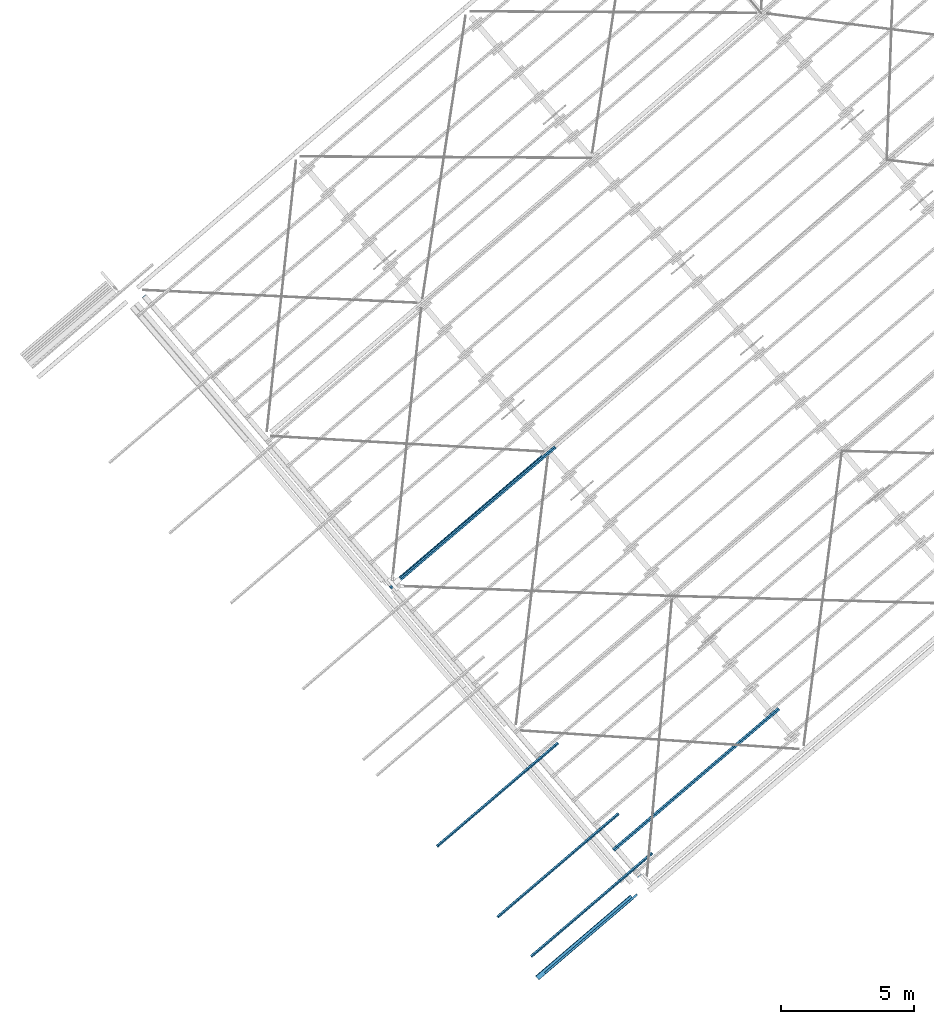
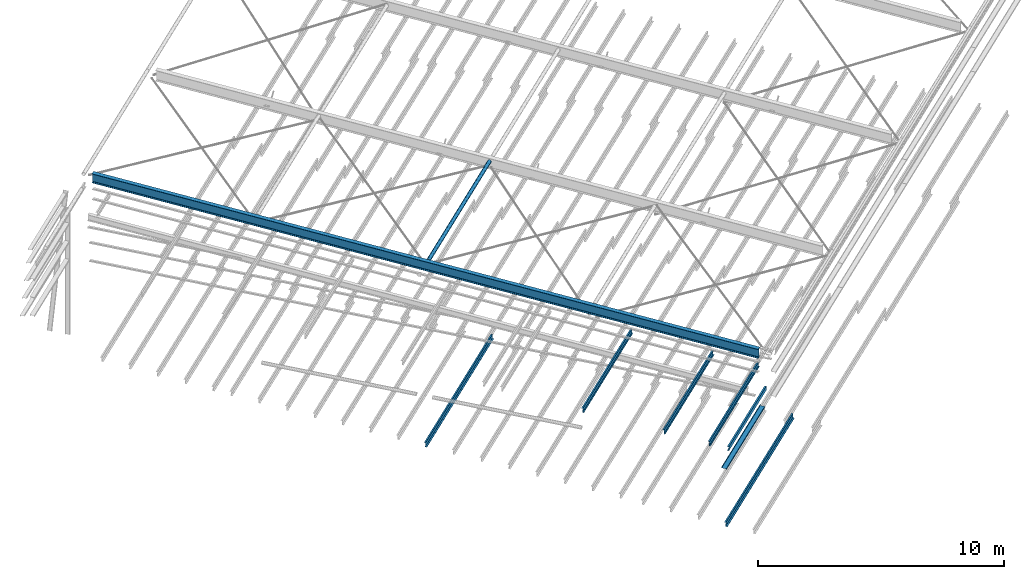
# One storey, part 2 of 25: 8 beams, 1 member, 2 elements without a shape of their own.
"""IFC2X3 building model written with IfcOpenShell, lengths in millimetres."""

from ifc_helpers import new_model, entity, si_unit, converted_unit, derived_unit, direction, frame, frame_2d, origin, origin_2d, origin_2d_with_axis, place, context, subcontext, project, spatial, polyline, circle_curve, parameter, trimmed, segment, composite_curve, hollow_circle, i_section, outline, extrude, clip, halfspace, material, type_object, element, aggregate, save


model = new_model("IFC2X3")

# Units and contexts
model_context = context("Model", 3, precision=0.01, world=origin(), true_north=direction((6.123031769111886e-17, 1.0)))
body_context = subcontext(model_context, "Body", "Model", "MODEL_VIEW")
ifc_project = project(units=[si_unit("LENGTHUNIT", "METRE", prefix="MILLI"), si_unit("AREAUNIT", "SQUARE_METRE"), si_unit("VOLUMEUNIT", "CUBIC_METRE"), converted_unit("PLANEANGLEUNIT", "DEGREE", entity("IfcRatioMeasure", 0.017453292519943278), si_unit("PLANEANGLEUNIT", "RADIAN"), dimensions=[0, 0, 0, 0, 0, 0, 0]), si_unit("MASSUNIT", "GRAM", prefix="KILO"), derived_unit("MASSDENSITYUNIT", [(si_unit("MASSUNIT", "GRAM", prefix="KILO"), 1), (si_unit("LENGTHUNIT", "METRE"), -3)]), derived_unit("MOMENTOFINERTIAUNIT", [(si_unit("LENGTHUNIT", "METRE"), 4)]), si_unit("TIMEUNIT", "SECOND"), si_unit("FREQUENCYUNIT", "HERTZ"), si_unit("THERMODYNAMICTEMPERATUREUNIT", "DEGREE_CELSIUS"), derived_unit("THERMALTRANSMITTANCEUNIT", [(si_unit("MASSUNIT", "GRAM", prefix="KILO"), 1), (si_unit("THERMODYNAMICTEMPERATUREUNIT", "KELVIN"), -1), (si_unit("TIMEUNIT", "SECOND"), -3)]), derived_unit("VOLUMETRICFLOWRATEUNIT", [(si_unit("LENGTHUNIT", "METRE"), 3), (si_unit("TIMEUNIT", "SECOND"), -1)]), derived_unit("MASSFLOWRATEUNIT", [(si_unit("MASSUNIT", "GRAM", prefix="KILO"), 1), (si_unit("TIMEUNIT", "SECOND"), -1)]), derived_unit("ROTATIONALFREQUENCYUNIT", [(si_unit("TIMEUNIT", "SECOND"), -1)]), si_unit("ELECTRICCURRENTUNIT", "AMPERE"), si_unit("ELECTRICVOLTAGEUNIT", "VOLT"), si_unit("POWERUNIT", "WATT"), si_unit("FORCEUNIT", "NEWTON", prefix="KILO"), si_unit("ILLUMINANCEUNIT", "LUX"), si_unit("LUMINOUSFLUXUNIT", "LUMEN"), si_unit("LUMINOUSINTENSITYUNIT", "CANDELA"), derived_unit("USERDEFINED", [(si_unit("MASSUNIT", "GRAM", prefix="KILO"), -1), (si_unit("LENGTHUNIT", "METRE"), -2), (si_unit("TIMEUNIT", "SECOND"), 3), (si_unit("LUMINOUSFLUXUNIT", "LUMEN"), 1)]), derived_unit("SOUNDPOWERUNIT", [(si_unit("MASSUNIT", "GRAM", prefix="KILO"), 1), (si_unit("LENGTHUNIT", "METRE"), 2), (si_unit("TIMEUNIT", "SECOND"), -3)]), derived_unit("LINEARVELOCITYUNIT", [(si_unit("LENGTHUNIT", "METRE"), 1), (si_unit("TIMEUNIT", "SECOND"), -1)]), si_unit("PRESSUREUNIT", "PASCAL"), derived_unit("USERDEFINED", [(si_unit("LENGTHUNIT", "METRE"), -2), (si_unit("MASSUNIT", "GRAM", prefix="KILO"), 1), (si_unit("TIMEUNIT", "SECOND"), -2)]), derived_unit("LINEARFORCEUNIT", [(si_unit("MASSUNIT", "GRAM", prefix="KILO"), 1), (si_unit("LENGTHUNIT", "METRE"), 1), (si_unit("TIMEUNIT", "SECOND"), -2), (si_unit("LENGTHUNIT", "METRE"), -1)]), derived_unit("PLANARFORCEUNIT", [(si_unit("MASSUNIT", "GRAM", prefix="KILO"), 1), (si_unit("LENGTHUNIT", "METRE"), 1), (si_unit("TIMEUNIT", "SECOND"), -2), (si_unit("LENGTHUNIT", "METRE"), -2)])], contexts=[model_context])

# Site, building, storey
site_placement = place(None, frame((962.4174930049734, -6014.433753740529, 0.0), z_axis=(0.0, 0.0, 1.0), x_axis=(0.7601792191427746, 0.649713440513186, 0.0)))
site = spatial("IfcSite", under=ifc_project, at=site_placement, Name="Default", CompositionType="ELEMENT")
building_placement = place(site_placement, origin())
building = spatial("IfcBuilding", under=site, at=building_placement, CompositionType="ELEMENT")
storey_placement = place(building_placement, frame((0.0, 0.0, 9200.0)))
storey = spatial("IfcBuildingStorey", under=building, at=storey_placement, Name="TOP OF CEILING", CompositionType="ELEMENT", Elevation=9200.000000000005)

# Beams
ifc_material_1 = material(Name="Metal - Steel - 300 MPa")
beam_type_1 = type_object("IfcBeamType", Name="ADSK_AU_CHS-Circular Hollow Sections (AS 1163_C350):168.3x6.4CHS", PredefinedType="NOTDEFINED")
beam_1_placement = place(storey_placement, frame((162338.96020471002, -11221.928082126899, 3047.4), z_axis=(-1.7905021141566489e-06, 0.0, 1.0), x_axis=(-1.0, 0.0, -1.7905021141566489e-06)))
element("IfcBeam", 1, at=beam_1_placement, inside=storey, type_object=beam_type_1, material=ifc_material_1, Name="ADSK_AU_CHS-Circular Hollow Sections (AS 1163_C350):168.3x6.4CHS", ObjectType="ADSK_AU_CHS-Circular Hollow Sections (AS 1163_C350):168.3x6.4CHS", context=body_context, shape_type="SweptSolid", body=[
    extrude(hollow_circle(Radius=84.15000000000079, WallThickness=6.4000000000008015, at=origin_2d_with_axis()), frame((0.03744185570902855, 0.0, -84.15000000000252), z_axis=(1.0, 0.0, 0.0), x_axis=(0.0, 0.0, -1.0)), (0.0, 0.0, 1.0), 7467.30640473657),
])
beam_type_2 = type_object("IfcBeamType", Name="ADSK_UK_Light Gauge-Zeds-Purlin:Metsec-202Z14", PredefinedType="NOTDEFINED")
beam_2_placement = place(storey_placement, frame((155490.82110097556, -19787.428082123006, 1190.0), z_axis=(0.0, 0.0, 1.0), x_axis=(-1.0, 0.0, 0.0)))
element("IfcBeam", 2, at=beam_2_placement, inside=storey, type_object=beam_type_2, material=ifc_material_1, Name="ADSK_UK_Light Gauge-Zeds-Purlin:Metsec-202Z14", ObjectType="ADSK_UK_Light Gauge-Zeds-Purlin:Metsec-202Z14", context=body_context, shape_type="SweptSolid", body=[
    extrude(outline(composite_curve([segment(trimmed(circle_curve(frame_2d((98.39999999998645, 58.0), x_axis=(1.0, 0.0)), 2.8000000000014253), [parameter(0.0)], [parameter(89.9999999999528)], True, "PARAMETER"), True, "CONTINUOUS"), segment(polyline([(98.39999999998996, 60.80000000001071), (80.19999999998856, 60.80000000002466)]), True, "CONTINUOUS"), segment(polyline([(80.19999999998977, 60.80000000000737), (80.19999999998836, 59.40000000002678)]), True, "CONTINUOUS"), segment(polyline([(80.19999999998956, 59.4000000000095), (98.39999999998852, 59.40000000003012)]), True, "CONTINUOUS"), segment(trimmed(circle_curve(frame_2d((98.39999999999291, 58.0), x_axis=(0.0, 1.0)), 1.3999999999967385), [parameter(269.9999999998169)], [parameter(0.0)], True, "PARAMETER"), False, "CONTINUOUS"), segment(polyline([(99.79999999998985, 58.0), (99.79999999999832, 3.6000000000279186)]), True, "CONTINUOUS"), segment(trimmed(circle_curve(frame_2d((98.4000000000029, 3.600000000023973), x_axis=(1.0, 0.0)), 1.3999999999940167), [parameter(269.99999999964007)], [parameter(0.0)], True, "PARAMETER"), False, "CONTINUOUS"), segment(polyline([(98.39999999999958, 2.2000000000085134), (-98.0, 2.1999999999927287)]), True, "CONTINUOUS"), segment(trimmed(circle_curve(frame_2d((-98.0, -0.6000000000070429), x_axis=(0.0, 1.0)), 2.80000000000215), [parameter(0.0)], [parameter(89.99999999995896)], True, "PARAMETER"), True, "CONTINUOUS"), segment(polyline([(-100.79999999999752, -0.6000000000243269), (-100.79999999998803, -60.0)]), True, "CONTINUOUS"), segment(trimmed(circle_curve(frame_2d((-98.0, -60.0), x_axis=(-1.0, 0.0)), 2.8000000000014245), [parameter(0.0)], [parameter(89.9999999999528)], True, "PARAMETER"), True, "CONTINUOUS"), segment(polyline([(-98.0, -62.80000000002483), (-81.79999999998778, -62.80000000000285)]), True, "CONTINUOUS"), segment(polyline([(-81.79999999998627, -62.800000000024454), (-81.79999999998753, -61.40000000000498)]), True, "CONTINUOUS"), segment(polyline([(-81.79999999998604, -61.40000000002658), (-98.0, -61.400000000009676)]), True, "CONTINUOUS"), segment(trimmed(circle_curve(frame_2d((-98.0, -60.0), x_axis=(0.0, -1.0)), 1.3999999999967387), [parameter(269.9999999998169)], [parameter(0.0)], True, "PARAMETER"), False, "CONTINUOUS"), segment(polyline([(-99.3999999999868, -60.0), (-99.39999999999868, -0.6000000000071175)]), True, "CONTINUOUS"), segment(trimmed(circle_curve(frame_2d((-98.0, -0.6000000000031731), x_axis=(-1.0, 0.0)), 1.3999999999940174), [parameter(269.99999999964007)], [parameter(0.0)], True, "PARAMETER"), False, "CONTINUOUS"), segment(polyline([(-98.0, 0.7999999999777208), (98.40000000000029, 0.8000000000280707)]), True, "CONTINUOUS"), segment(trimmed(circle_curve(frame_2d((98.39999999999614, 3.6000000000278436), x_axis=(0.0, -1.0)), 2.8000000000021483), [parameter(0.0)], [parameter(89.99999999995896)], True, "PARAMETER"), True, "CONTINUOUS"), segment(polyline([(101.19999999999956, 3.600000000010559), (101.19999999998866, 58.0)]), True, "CONTINUOUS")], self_intersect=False)), frame((0.0, -7.6946638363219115, -100.5083188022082), z_axis=(1.0, 0.0, 0.0), x_axis=(0.0, -0.06940825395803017, -0.9975883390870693)), (0.0, 0.0, 1.0), 6000.000000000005),
])
beam_3_placement = place(storey_placement, frame((155490.82110097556, -23287.42808212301, 940.0), z_axis=(0.0, 0.0, 1.0), x_axis=(-1.0, 0.0, 0.0)))
element("IfcBeam", 3, at=beam_3_placement, inside=storey, type_object=beam_type_2, material=ifc_material_1, Name="ADSK_UK_Light Gauge-Zeds-Purlin:Metsec-202Z14", ObjectType="ADSK_UK_Light Gauge-Zeds-Purlin:Metsec-202Z14", context=body_context, shape_type="SweptSolid", body=[
    extrude(outline(composite_curve([segment(trimmed(circle_curve(frame_2d((98.39999999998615, 58.0), x_axis=(1.0, 0.0)), 2.8000000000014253), [parameter(0.0)], [parameter(89.9999999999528)], True, "PARAMETER"), True, "CONTINUOUS"), segment(polyline([(98.39999999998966, 60.80000000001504), (80.19999999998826, 60.80000000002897)]), True, "CONTINUOUS"), segment(polyline([(80.19999999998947, 60.80000000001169), (80.19999999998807, 59.4000000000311)]), True, "CONTINUOUS"), segment(polyline([(80.19999999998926, 59.40000000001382), (98.39999999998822, 59.40000000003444)]), True, "CONTINUOUS"), segment(trimmed(circle_curve(frame_2d((98.39999999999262, 58.0), x_axis=(0.0, 1.0)), 1.3999999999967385), [parameter(269.9999999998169)], [parameter(0.0)], True, "PARAMETER"), False, "CONTINUOUS"), segment(polyline([(99.79999999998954, 58.0), (99.79999999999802, 3.6000000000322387)]), True, "CONTINUOUS"), segment(trimmed(circle_curve(frame_2d((98.4000000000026, 3.600000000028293), x_axis=(1.0, 0.0)), 1.3999999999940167), [parameter(269.99999999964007)], [parameter(0.0)], True, "PARAMETER"), False, "CONTINUOUS"), segment(polyline([(98.39999999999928, 2.2000000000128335), (-98.0, 2.1999999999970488)]), True, "CONTINUOUS"), segment(trimmed(circle_curve(frame_2d((-98.0, -0.6000000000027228), x_axis=(0.0, 1.0)), 2.80000000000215), [parameter(0.0)], [parameter(89.99999999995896)], True, "PARAMETER"), True, "CONTINUOUS"), segment(polyline([(-100.79999999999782, -0.6000000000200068), (-100.79999999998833, -60.0)]), True, "CONTINUOUS"), segment(trimmed(circle_curve(frame_2d((-98.0, -60.0), x_axis=(-1.0, 0.0)), 2.8000000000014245), [parameter(0.0)], [parameter(89.9999999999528)], True, "PARAMETER"), True, "CONTINUOUS"), segment(polyline([(-98.0, -62.80000000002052), (-81.79999999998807, -62.79999999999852)]), True, "CONTINUOUS"), segment(polyline([(-81.79999999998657, -62.800000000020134), (-81.79999999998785, -61.400000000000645)]), True, "CONTINUOUS"), segment(polyline([(-81.79999999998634, -61.40000000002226), (-98.0, -61.40000000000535)]), True, "CONTINUOUS"), segment(trimmed(circle_curve(frame_2d((-98.0, -60.0), x_axis=(0.0, -1.0)), 1.3999999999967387), [parameter(269.9999999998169)], [parameter(0.0)], True, "PARAMETER"), False, "CONTINUOUS"), segment(polyline([(-99.3999999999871, -60.0), (-99.39999999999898, -0.6000000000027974)]), True, "CONTINUOUS"), segment(trimmed(circle_curve(frame_2d((-98.0, -0.5999999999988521), x_axis=(-1.0, 0.0)), 1.3999999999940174), [parameter(269.99999999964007)], [parameter(0.0)], True, "PARAMETER"), False, "CONTINUOUS"), segment(polyline([(-98.0, 0.7999999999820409), (98.39999999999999, 0.8000000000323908)]), True, "CONTINUOUS"), segment(trimmed(circle_curve(frame_2d((98.39999999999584, 3.600000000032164), x_axis=(0.0, -1.0)), 2.8000000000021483), [parameter(0.0)], [parameter(89.99999999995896)], True, "PARAMETER"), True, "CONTINUOUS"), segment(polyline([(101.19999999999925, 3.6000000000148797), (101.19999999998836, 58.0)]), True, "CONTINUOUS")], self_intersect=False)), frame((0.0, -7.694663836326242, -100.5083188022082), z_axis=(1.0, 0.0, 0.0), x_axis=(0.0, -0.06940825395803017, -0.9975883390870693)), (0.0, 0.0, 1.0), 6000.000000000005),
])
beam_4_placement = place(storey_placement, frame((155490.82110097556, -25237.428082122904, 810.0), z_axis=(0.0, 0.0, 1.0), x_axis=(-1.0, 0.0, 0.0)))
element("IfcBeam", 4, at=beam_4_placement, inside=storey, type_object=beam_type_2, material=ifc_material_1, Name="ADSK_UK_Light Gauge-Zeds-Purlin:Metsec-202Z14", ObjectType="ADSK_UK_Light Gauge-Zeds-Purlin:Metsec-202Z14", context=body_context, shape_type="SweptSolid", body=[
    extrude(outline(composite_curve([segment(trimmed(circle_curve(frame_2d((98.39999999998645, 58.0), x_axis=(1.0, 0.0)), 2.8000000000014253), [parameter(0.0)], [parameter(89.9999999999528)], True, "PARAMETER"), True, "CONTINUOUS"), segment(polyline([(98.39999999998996, 60.80000000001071), (80.19999999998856, 60.80000000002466)]), True, "CONTINUOUS"), segment(polyline([(80.19999999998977, 60.80000000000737), (80.19999999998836, 59.40000000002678)]), True, "CONTINUOUS"), segment(polyline([(80.19999999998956, 59.4000000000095), (98.39999999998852, 59.40000000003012)]), True, "CONTINUOUS"), segment(trimmed(circle_curve(frame_2d((98.39999999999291, 58.0), x_axis=(0.0, 1.0)), 1.3999999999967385), [parameter(269.9999999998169)], [parameter(0.0)], True, "PARAMETER"), False, "CONTINUOUS"), segment(polyline([(99.79999999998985, 58.0), (99.79999999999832, 3.6000000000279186)]), True, "CONTINUOUS"), segment(trimmed(circle_curve(frame_2d((98.4000000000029, 3.600000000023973), x_axis=(1.0, 0.0)), 1.3999999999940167), [parameter(269.99999999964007)], [parameter(0.0)], True, "PARAMETER"), False, "CONTINUOUS"), segment(polyline([(98.39999999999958, 2.2000000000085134), (-98.0, 2.1999999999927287)]), True, "CONTINUOUS"), segment(trimmed(circle_curve(frame_2d((-98.0, -0.6000000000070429), x_axis=(0.0, 1.0)), 2.80000000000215), [parameter(0.0)], [parameter(89.99999999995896)], True, "PARAMETER"), True, "CONTINUOUS"), segment(polyline([(-100.79999999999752, -0.6000000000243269), (-100.79999999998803, -60.0)]), True, "CONTINUOUS"), segment(trimmed(circle_curve(frame_2d((-98.0, -60.0), x_axis=(-1.0, 0.0)), 2.8000000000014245), [parameter(0.0)], [parameter(89.9999999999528)], True, "PARAMETER"), True, "CONTINUOUS"), segment(polyline([(-98.0, -62.80000000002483), (-81.79999999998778, -62.80000000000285)]), True, "CONTINUOUS"), segment(polyline([(-81.79999999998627, -62.800000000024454), (-81.79999999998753, -61.40000000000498)]), True, "CONTINUOUS"), segment(polyline([(-81.79999999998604, -61.40000000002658), (-98.0, -61.400000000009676)]), True, "CONTINUOUS"), segment(trimmed(circle_curve(frame_2d((-98.0, -60.0), x_axis=(0.0, -1.0)), 1.3999999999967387), [parameter(269.9999999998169)], [parameter(0.0)], True, "PARAMETER"), False, "CONTINUOUS"), segment(polyline([(-99.3999999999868, -60.0), (-99.39999999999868, -0.6000000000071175)]), True, "CONTINUOUS"), segment(trimmed(circle_curve(frame_2d((-98.0, -0.6000000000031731), x_axis=(-1.0, 0.0)), 1.3999999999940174), [parameter(269.99999999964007)], [parameter(0.0)], True, "PARAMETER"), False, "CONTINUOUS"), segment(polyline([(-98.0, 0.7999999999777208), (98.40000000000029, 0.8000000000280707)]), True, "CONTINUOUS"), segment(trimmed(circle_curve(frame_2d((98.39999999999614, 3.6000000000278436), x_axis=(0.0, -1.0)), 2.8000000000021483), [parameter(0.0)], [parameter(89.99999999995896)], True, "PARAMETER"), True, "CONTINUOUS"), segment(polyline([(101.19999999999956, 3.600000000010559), (101.19999999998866, 58.0)]), True, "CONTINUOUS")], self_intersect=False)), frame((0.0, -7.6946638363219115, -100.5083188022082), z_axis=(1.0, 0.0, 0.0), x_axis=(0.0, -0.06940825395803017, -0.9975883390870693)), (0.0, 0.0, 1.0), 6000.000000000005),
])
beam_5_placement = place(storey_placement, frame((153838.4387790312, -25888.928082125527, -100.0), z_axis=(0.0, 0.0, 1.0), x_axis=(-1.0, 0.0, 0.0)))
element("IfcBeam", 5, at=beam_5_placement, inside=storey, type_object=beam_type_2, material=ifc_material_1, Name="ADSK_UK_Light Gauge-Zeds-Purlin:Metsec-202Z14", ObjectType="ADSK_UK_Light Gauge-Zeds-Purlin:Metsec-202Z14", context=body_context, shape_type="SweptSolid", body=[
    extrude(outline(composite_curve([segment(polyline([(-60.0, -100.80000000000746), (-0.5999999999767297, -100.80000000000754)]), True, "CONTINUOUS"), segment(trimmed(circle_curve(frame_2d((-0.5999999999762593, -98.0), x_axis=(0.0, -1.0)), 2.8000000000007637), [parameter(0.0)], [parameter(90.00000000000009)], True, "PARAMETER"), True, "CONTINUOUS"), segment(polyline([(2.200000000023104, -98.0), (2.1999999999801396, 98.3999999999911)]), True, "CONTINUOUS"), segment(trimmed(circle_curve(frame_2d((3.5999999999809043, 98.40000000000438), x_axis=(-1.0, 0.0)), 1.3999999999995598), [parameter(269.9999999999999)], [parameter(0.0)], True, "PARAMETER"), False, "CONTINUOUS"), segment(polyline([(3.599999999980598, 99.80000000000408), (58.0, 99.80000000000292)]), True, "CONTINUOUS"), segment(trimmed(circle_curve(frame_2d((58.0, 98.40000000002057), x_axis=(0.0, 1.0)), 1.3999999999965), [parameter(269.99999999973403)], [parameter(0.0)], True, "PARAMETER"), False, "CONTINUOUS"), segment(polyline([(59.399999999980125, 98.40000000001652), (59.39999999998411, 80.20000000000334)]), True, "CONTINUOUS"), segment(polyline([(59.39999999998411, 80.20000000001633), (60.7999999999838, 80.20000000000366)]), True, "CONTINUOUS"), segment(polyline([(60.7999999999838, 80.20000000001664), (60.79999999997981, 98.40000000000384)]), True, "CONTINUOUS"), segment(trimmed(circle_curve(frame_2d((58.0, 98.40000000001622), x_axis=(1.0, 0.0)), 2.8000000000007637), [parameter(0.0)], [parameter(90.00000000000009)], True, "PARAMETER"), True, "CONTINUOUS"), segment(polyline([(58.0, 101.2000000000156), (3.5999999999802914, 101.19999999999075)]), True, "CONTINUOUS"), segment(trimmed(circle_curve(frame_2d((3.5999999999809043, 98.40000000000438), x_axis=(0.0, 1.0)), 2.800000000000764), [parameter(0.0)], [parameter(90.00000000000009)], True, "PARAMETER"), True, "CONTINUOUS"), segment(polyline([(0.7999999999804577, 98.40000000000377), (0.8000000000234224, -98.0)]), True, "CONTINUOUS"), segment(trimmed(circle_curve(frame_2d((-0.5999999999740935, -98.0), x_axis=(1.0, 0.0)), 1.399999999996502), [parameter(269.99999999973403)], [parameter(0.0)], True, "PARAMETER"), False, "CONTINUOUS"), segment(polyline([(-0.5999999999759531, -99.39999999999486), (-60.0, -99.40000000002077)]), True, "CONTINUOUS"), segment(trimmed(circle_curve(frame_2d((-60.0, -98.0), x_axis=(0.0, -1.0)), 1.3999999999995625), [parameter(269.9999999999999)], [parameter(0.0)], True, "PARAMETER"), False, "CONTINUOUS"), segment(polyline([(-61.399999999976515, -98.0), (-61.39999999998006, -81.80000000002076)]), True, "CONTINUOUS"), segment(polyline([(-61.39999999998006, -81.80000000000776), (-62.79999999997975, -81.80000000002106)]), True, "CONTINUOUS"), segment(polyline([(-62.79999999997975, -81.80000000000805), (-62.7999999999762, -98.0)]), True, "CONTINUOUS"), segment(trimmed(circle_curve(frame_2d((-60.0, -98.0), x_axis=(-1.0, 0.0)), 2.8000000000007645), [parameter(0.0)], [parameter(90.00000000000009)], True, "PARAMETER"), True, "CONTINUOUS")], self_intersect=False)), frame((4.0, 100.79999999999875, 0.7000000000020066), z_axis=(1.0, 0.0, 0.0), x_axis=(0.0, 0.0, -1.0)), (0.0, 0.0, 1.0), 4691.000000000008),
])
beam_type_3 = type_object("IfcBeamType", Name="ADSK_AU_PFC-Parallel Flange Channels (AS 3679_1):200PFC", PredefinedType="NOTDEFINED")
beam_6_placement = place(storey_placement, frame((154050.82110097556, -26056.428082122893, 762.0), z_axis=(0.0, 0.0, 1.0), x_axis=(-1.0, 0.0, 0.0)))
element("IfcBeam", 6, at=beam_6_placement, inside=storey, type_object=beam_type_3, material=ifc_material_1, Name="ADSK_AU_PFC-Parallel Flange Channels (AS 3679_1):200PFC", ObjectType="ADSK_AU_PFC-Parallel Flange Channels (AS 3679_1):200PFC", context=body_context, shape_type="SweptSolid", body=[
    extrude(outline(composite_curve([segment(polyline([(-100.0, -40.1999999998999), (-88.0, -40.1999999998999)]), True, "CONTINUOUS"), segment(polyline([(-88.0, -40.1999999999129), (-88.0, 16.800000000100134)]), True, "CONTINUOUS"), segment(trimmed(circle_curve(frame_2d((-76.0, 16.800000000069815), x_axis=(-1.0, 0.0)), 12.000000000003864), [parameter(270.00000000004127)], [parameter(0.0)], True, "PARAMETER"), False, "CONTINUOUS"), segment(polyline([(-76.0, 28.80000000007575), (76.0, 28.79999999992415)]), True, "CONTINUOUS"), segment(trimmed(circle_curve(frame_2d((76.0, 16.799999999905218), x_axis=(0.0, 1.0)), 12.000000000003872), [parameter(270.00000000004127)], [parameter(0.0)], True, "PARAMETER"), False, "CONTINUOUS"), segment(polyline([(88.0, 16.799999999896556), (88.0, -40.20000000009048)]), True, "CONTINUOUS"), segment(polyline([(88.0, -40.20000000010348), (100.0, -40.20000000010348)]), True, "CONTINUOUS"), segment(polyline([(100.0, -40.200000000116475), (100.0, 34.7999999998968)]), True, "CONTINUOUS"), segment(polyline([(100.0, 34.7999999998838), (-100.0, 34.80000000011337)]), True, "CONTINUOUS"), segment(polyline([(-100.0, 34.800000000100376), (-100.0, -40.199999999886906)]), True, "CONTINUOUS")], self_intersect=False)), frame((0.0, -10.40000000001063, -100.0), z_axis=(1.0, 0.0, 0.0), x_axis=(0.0, 0.0, -1.0)), (0.0, 0.0, 1.0), 4560.000000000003),
])

# Assembly, beam
assembly_1_placement = place(storey_placement, origin())
assembly_1 = element("IfcElementAssembly", 7, at=assembly_1_placement, inside=storey, Name="Structural Beam System:Structural Beam System 1", ObjectType="Structural Beam System:Structural Beam System 1", AssemblyPlace="NOTDEFINED", PredefinedType="BEAM_GRID")
ifc_material_2 = material(Name="Metal - Light Gauge")
beam_type_4 = type_object("IfcBeamType", Name="ADSK_AU_Light Gauge-Zeds:Z20015", PredefinedType="NOTDEFINED")
beam_7_placement = place(building_placement, frame((162638.96020471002, -11247.590311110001, 3403.5002566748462), z_axis=(0.0, 0.0, 1.0), x_axis=(-1.0, 0.0, 0.0)))
beam_7 = element("IfcBeam", 8, at=beam_7_placement, type_object=beam_type_4, material=ifc_material_2, Name="ADSK_AU_Light Gauge-Zeds:Z20015", ObjectType="ADSK_AU_Light Gauge-Zeds:Z20015", context=body_context, shape_type="SweptSolid", body=[
    extrude(outline(composite_curve([segment(polyline([(100.0, 1.0), (100.0, -69.0)]), True, "CONTINUOUS"), segment(trimmed(circle_curve(frame_2d((98.0, -69.0), x_axis=(0.0, -1.0)), 2.000000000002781), [parameter(0.0)], [parameter(89.99999999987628)], True, "PARAMETER"), False, "CONTINUOUS"), segment(polyline([(98.0, -71.0), (81.4999999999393, -71.0)]), True, "CONTINUOUS"), segment(polyline([(81.4999999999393, -71.0), (81.49999999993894, -72.50000000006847)]), True, "CONTINUOUS"), segment(polyline([(81.49999999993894, -72.50000000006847), (98.0, -72.50000000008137)]), True, "CONTINUOUS"), segment(trimmed(circle_curve(frame_2d((98.0, -69.0), x_axis=(1.0, 0.0)), 3.5000000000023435), [parameter(270.00000000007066)], [parameter(0.0)], True, "PARAMETER"), True, "CONTINUOUS"), segment(polyline([(101.49999999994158, -69.0), (101.50000000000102, 1.0)]), True, "CONTINUOUS"), segment(trimmed(circle_curve(frame_2d((98.0, 1.0), x_axis=(0.0, 1.0)), 3.500000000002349), [parameter(270.00000000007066)], [parameter(0.0)], True, "PARAMETER"), True, "CONTINUOUS"), segment(polyline([(98.0, 4.499999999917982), (-98.0, 4.500000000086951)]), True, "CONTINUOUS"), segment(trimmed(circle_curve(frame_2d((-98.0, 6.500000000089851), x_axis=(-1.0, 0.0)), 2.0000000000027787), [parameter(0.0)], [parameter(89.99999999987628)], True, "PARAMETER"), False, "CONTINUOUS"), segment(polyline([(-100.0, 6.500000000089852), (-100.0, 64.0)]), True, "CONTINUOUS"), segment(trimmed(circle_curve(frame_2d((-98.0, 64.0), x_axis=(0.0, 1.0)), 2.000000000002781), [parameter(0.0)], [parameter(89.99999999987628)], True, "PARAMETER"), False, "CONTINUOUS"), segment(polyline([(-98.0, 66.0), (-81.49999999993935, 66.0)]), True, "CONTINUOUS"), segment(polyline([(-81.49999999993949, 66.0), (-81.49999999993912, 67.50000000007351)]), True, "CONTINUOUS"), segment(polyline([(-81.49999999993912, 67.50000000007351), (-98.0, 67.50000000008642)]), True, "CONTINUOUS"), segment(trimmed(circle_curve(frame_2d((-98.0, 64.0), x_axis=(-1.0, 0.0)), 3.5000000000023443), [parameter(270.00000000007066)], [parameter(0.0)], True, "PARAMETER"), True, "CONTINUOUS"), segment(polyline([(-101.49999999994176, 64.0), (-101.49999999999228, 6.500000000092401)]), True, "CONTINUOUS"), segment(trimmed(circle_curve(frame_2d((-98.0, 6.500000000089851), x_axis=(0.0, -1.0)), 3.500000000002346), [parameter(270.00000000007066)], [parameter(0.0)], True, "PARAMETER"), True, "CONTINUOUS"), segment(polyline([(-98.0, 3.0), (98.0, 3.0)]), True, "CONTINUOUS"), segment(trimmed(circle_curve(frame_2d((98.0, 1.0), x_axis=(1.0, 0.0)), 2.000000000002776), [parameter(0.0)], [parameter(89.99999999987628)], True, "PARAMETER"), False, "CONTINUOUS")], self_intersect=False)), frame((0.013129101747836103, -2.59124385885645, -101.56665523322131), z_axis=(-1.0, 0.0, 0.0), x_axis=(0.0, -0.06975647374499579, -0.9975640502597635)), (0.0, 0.0, -1.0), 8164.000000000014),
])
aggregate(assembly_1, [beam_7])

assembly_2_placement = place(storey_placement, origin())
assembly_2 = element("IfcElementAssembly", 9, at=assembly_2_placement, inside=storey, Name="Structural Beam System:Structural Beam System 1", ObjectType="Structural Beam System:Structural Beam System 1", AssemblyPlace="NOTDEFINED", PredefinedType="BEAM_GRID")
beam_type_5 = type_object("IfcBeamType", Name="ADSK_AU_Light Gauge-Zeds:Z20024", PredefinedType="NOTDEFINED")
beam_8_placement = place(building_placement, frame((162638.67477392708, -24194.63903333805, 2498.154415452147), z_axis=(0.0, 0.0, 1.0), x_axis=(-1.0, 0.0, 0.0)))
beam_8 = element("IfcBeam", 10, at=beam_8_placement, type_object=beam_type_5, material=ifc_material_2, Name="ADSK_AU_Light Gauge-Zeds:Z20024", ObjectType="ADSK_AU_Light Gauge-Zeds:Z20024", context=body_context, shape_type="SweptSolid", body=[
    extrude(outline(composite_curve([segment(polyline([(99.10000000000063, 1.0300000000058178), (99.10000000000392, -71.66999999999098)]), True, "CONTINUOUS"), segment(trimmed(circle_curve(frame_2d((97.1000000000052, -71.66999999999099), x_axis=(0.0, -1.0)), 1.9999999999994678), [parameter(0.0)], [parameter(90.00000000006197)], True, "PARAMETER"), False, "CONTINUOUS"), segment(polyline([(97.10000000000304, -73.66999999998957), (79.50000000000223, -73.66999999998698)]), True, "CONTINUOUS"), segment(polyline([(79.50000000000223, -73.66999999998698), (79.5000000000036, -76.06999999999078)]), True, "CONTINUOUS"), segment(polyline([(79.50000000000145, -76.06999999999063), (97.10000000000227, -76.0699999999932)]), True, "CONTINUOUS"), segment(trimmed(circle_curve(frame_2d((97.10000000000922, -71.66999999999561), x_axis=(1.0, 0.0)), 4.39999999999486), [parameter(269.9999999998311)], [parameter(0.0)], True, "PARAMETER"), True, "CONTINUOUS"), segment(polyline([(101.50000000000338, -71.66999999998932), (101.50000000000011, 1.030000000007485)]), True, "CONTINUOUS"), segment(trimmed(circle_curve(frame_2d((97.10000000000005, 1.0300000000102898), x_axis=(0.0, 1.0)), 4.399999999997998), [parameter(269.9999999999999)], [parameter(0.0)], True, "PARAMETER"), True, "CONTINUOUS"), segment(polyline([(97.09999999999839, 5.43000000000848), (-97.10000000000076, 5.430000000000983)]), True, "CONTINUOUS"), segment(trimmed(circle_curve(frame_2d((-97.10000000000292, 7.429999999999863), x_axis=(-1.0, 0.0)), 1.9999999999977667), [parameter(0.0)], [parameter(90.00000000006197)], True, "PARAMETER"), False, "CONTINUOUS"), segment(polyline([(-99.10000000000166, 7.429999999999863), (-99.1000000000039, 66.02999999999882)]), True, "CONTINUOUS"), segment(trimmed(circle_curve(frame_2d((-97.10000000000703, 66.0300000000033), x_axis=(0.0, 1.0)), 1.9999999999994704), [parameter(0.0)], [parameter(90.00000000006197)], True, "PARAMETER"), False, "CONTINUOUS"), segment(polyline([(-97.10000000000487, 68.03000000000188), (-79.50000000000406, 68.0299999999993)]), True, "CONTINUOUS"), segment(polyline([(-79.50000000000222, 68.02999999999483), (-79.50000000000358, 70.42999999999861)]), True, "CONTINUOUS"), segment(polyline([(-79.50000000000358, 70.42999999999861), (-97.10000000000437, 70.43000000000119)]), True, "CONTINUOUS"), segment(trimmed(circle_curve(frame_2d((-97.10000000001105, 66.03000000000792), x_axis=(-1.0, 0.0)), 4.3999999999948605), [parameter(269.9999999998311)], [parameter(0.0)], True, "PARAMETER"), True, "CONTINUOUS"), segment(polyline([(-101.50000000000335, 66.02999999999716), (-101.50000000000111, 7.429999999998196)]), True, "CONTINUOUS"), segment(trimmed(circle_curve(frame_2d((-97.10000000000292, 7.429999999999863), x_axis=(0.0, -1.0)), 4.399999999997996), [parameter(269.9999999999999)], [parameter(0.0)], True, "PARAMETER"), True, "CONTINUOUS"), segment(polyline([(-97.10000000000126, 3.030000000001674), (97.09999999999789, 3.03000000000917)]), True, "CONTINUOUS"), segment(trimmed(circle_curve(frame_2d((97.10000000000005, 1.0300000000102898), x_axis=(1.0, 0.0)), 1.9999999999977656), [parameter(0.0)], [parameter(90.00000000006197)], True, "PARAMETER"), False, "CONTINUOUS")], self_intersect=False)), frame((0.0, -1.6635092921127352, -101.6315287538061), z_axis=(-1.0, 0.0, 0.0), x_axis=(0.0, -0.06975647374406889, -0.9975640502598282)), (0.0, 0.0, -1.0), 8192.00000000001),
])
aggregate(assembly_2, [beam_8])

# Member
member_type = type_object("IfcMemberType", Name="ADSK_AU_UB-Universal Beams (AS 3679_1):460UB67.1", PredefinedType="MEMBER", material=ifc_material_1)
member_placement = place(storey_placement, frame((154569.933946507, -26291.967145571, 1903.5525006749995), z_axis=(0.0, -0.9975640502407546, -0.0697564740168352), x_axis=(1.0, 0.0, 0.0)))
element("IfcMember", 11, at=member_placement, inside=storey, type_object=member_type, material=ifc_material_1, Name="ADSK_AU_UB-Universal Beams (AS 3679_1):460UB67.1", ObjectType="460UB67.1", context=model_context, shape_type="Clipping", body=[
    clip(clip(extrude(i_section(OverallWidth=190.0, OverallDepth=453.8, WebThickness=8.5, FlangeThickness=12.7, FilletRadius=11.4, at=origin_2d()), origin(), (0.0, 0.0, -1.0), 30207.235093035), halfspace(frame((-154569.933946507, -11126.139330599, 64.737880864), z_axis=(0.0, -0.069756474, -0.99756405), x_axis=(-1.0, 0.0, 0.0)), True)), halfspace(frame((-154569.933946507, -13128.603404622, -28571.832532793), z_axis=(0.0, 0.069756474, 0.99756405), x_axis=(1.0, 0.0, 0.0)), True)),
])

save(model, "model.ifc")
